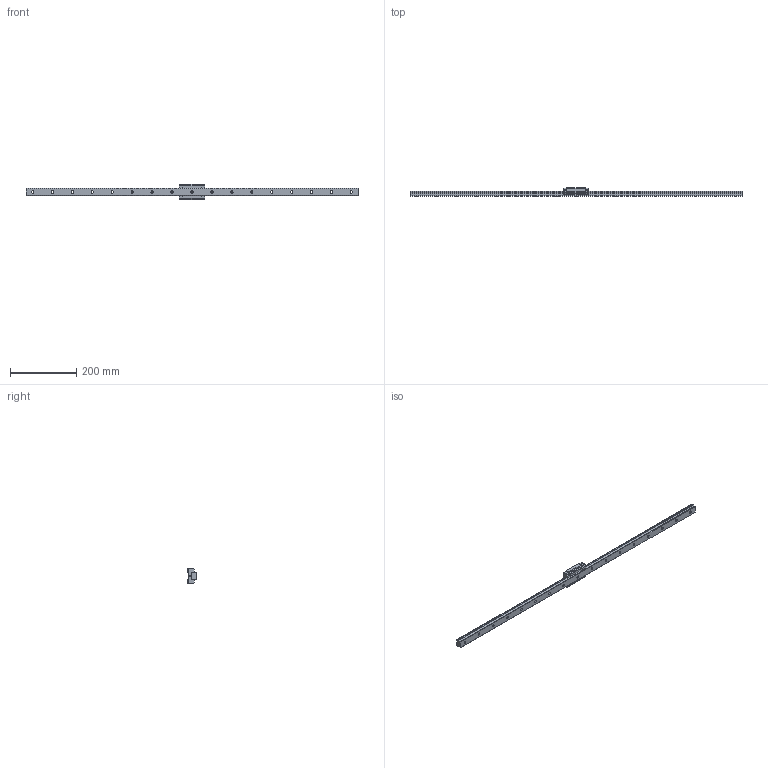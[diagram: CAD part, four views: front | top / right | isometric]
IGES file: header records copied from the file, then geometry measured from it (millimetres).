
Start section: Data from XPlus IGES,  Spatial Corp. Copyright (c) 1999-2004
Global section: file name: SRS25M1UU1000200461.5000.igs; native system:  By Spatial Corp.; preprocessor: XPlus ACIS/IGES 3.0; author: Noname; organization: Noname; date: 20161110.141038; units: millimetre
Bounding box: 1000 x 25 x 48 mm (x, y, z)
Surface area: 96587.1 mm2 (no closed solid volume)
Topology: 0 solids, 0 shells, 237 faces, 1204 edges, 1196 vertices
Faces by surface type: extrusion 123, revolution 114
